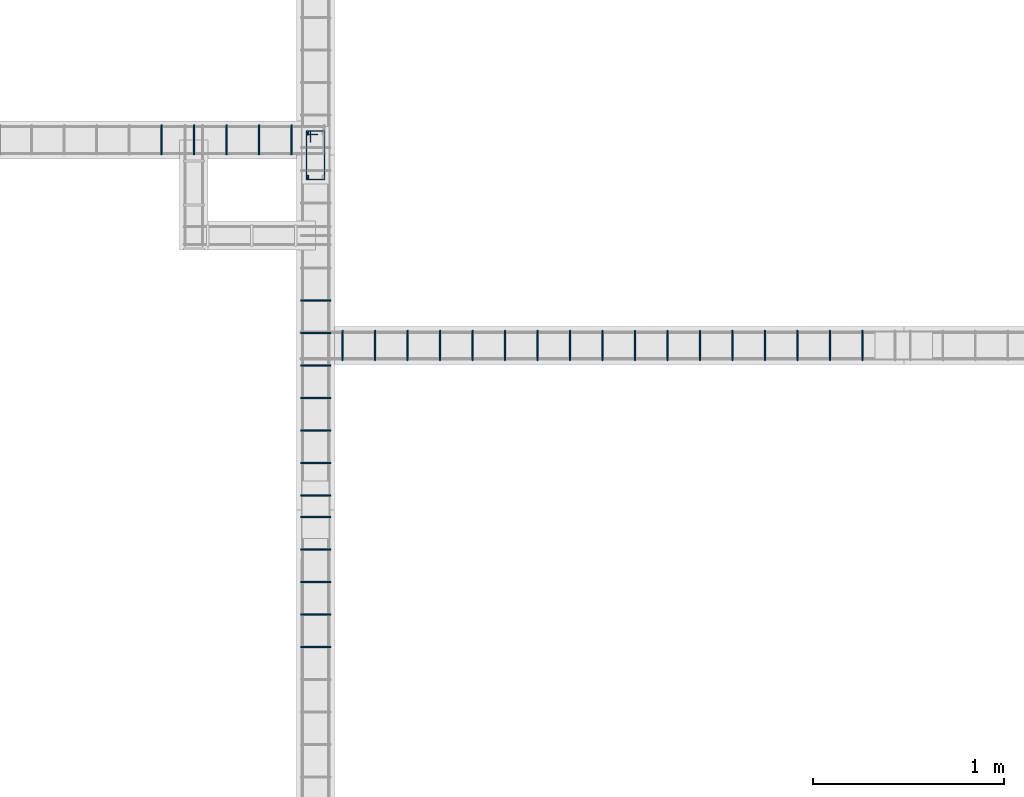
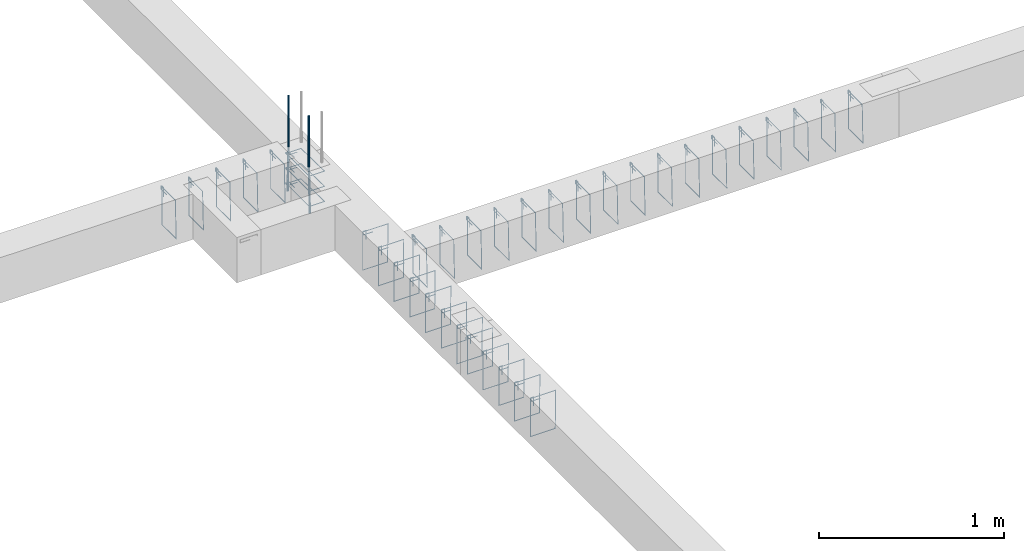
# One storey, part 64 of 150: 39 reinforcing bars.
"""IFC4 building model written with IfcOpenShell, lengths in centimetres."""

from ifc_helpers import new_model, entity, si_unit, derived_unit, frame, origin_with_axes, place, context, project, spatial, source, transform, mapped, element, save


model = new_model("IFC4")

# Units and contexts
model_context = context("Model", 3, precision=1e-05, world=origin_with_axes(), identifier="Body")
ifc_project = project(units=[si_unit("LENGTHUNIT", "METRE", prefix="CENTI"), si_unit("VOLUMEUNIT", "CUBIC_METRE"), si_unit("AREAUNIT", "SQUARE_METRE"), si_unit("POWERUNIT", "WATT"), si_unit("LUMINOUSFLUXUNIT", "LUMEN"), si_unit("ELECTRICCURRENTUNIT", "AMPERE"), si_unit("PRESSUREUNIT", "PASCAL", prefix="KILO"), si_unit("MASSUNIT", "GRAM", prefix="KILO"), si_unit("PLANEANGLEUNIT", "RADIAN"), derived_unit("VOLUMETRICFLOWRATEUNIT", [(si_unit("LENGTHUNIT", "METRE"), 3), (si_unit("TIMEUNIT", "SECOND"), -1)])], contexts=[model_context])

# Site, building, storey
site_placement = place(None, frame((-4000.0, 0.0, 0.0), z_axis=(0.0, 0.0, 1.0), x_axis=(1.0, 0.0, 0.0)))
site = spatial("IfcSite", under=ifc_project, at=site_placement, Name="PADRÃO")
building_placement = place(site_placement, frame((0.0, 0.0, -14.0)))
building = spatial("IfcBuilding", under=site, at=building_placement, Name="CRECHE PRÉ-ESCOLA TIPO 2")
placement = place(building_placement, origin_with_axes())
storey_placement = place(placement, frame((0.0, 0.0, 30.0), z_axis=(0.0, 0.0, 1.0), x_axis=(1.0, 0.0, 0.0)))
storey = spatial("IfcBuildingStorey", under=building, at=storey_placement, Name="VIGA BALDRAME", CompositionType="ELEMENT", Elevation=16.0)

# Reinforcing bars
shared_shape_1 = source(origin_with_axes(), model_context, "Body", "AdvancedSweptSolid", [
    entity("IfcSweptDiskSolid", entity("IfcCompositeCurve", [entity("IfcCompositeCurveSegment", "CONTINUOUS", True, entity("IfcPolyline", [entity("IfcCartesianPoint", [4.25, 21.75, 0.0]), entity("IfcCartesianPoint", [4.25, 27.75, 0.0])])), entity("IfcCompositeCurveSegment", "CONTINUOUS", True, entity("IfcPolyline", [entity("IfcCartesianPoint", [4.25, 27.75, 0.0]), entity("IfcCartesianPoint", [2.25, 27.75, 0.0])])), entity("IfcCompositeCurveSegment", "CONTINUOUS", True, entity("IfcPolyline", [entity("IfcCartesianPoint", [2.25, 27.75, 0.0]), entity("IfcCartesianPoint", [2.25, 2.25, 0.0])])), entity("IfcCompositeCurveSegment", "CONTINUOUS", True, entity("IfcPolyline", [entity("IfcCartesianPoint", [2.25, 2.25, 0.0]), entity("IfcCartesianPoint", [11.75, 2.25, 0.0])])), entity("IfcCompositeCurveSegment", "CONTINUOUS", True, entity("IfcPolyline", [entity("IfcCartesianPoint", [11.75, 2.25, 0.0]), entity("IfcCartesianPoint", [11.75, 27.75, -0.5])])), entity("IfcCompositeCurveSegment", "CONTINUOUS", True, entity("IfcPolyline", [entity("IfcCartesianPoint", [11.75, 27.75, -0.5]), entity("IfcCartesianPoint", [2.25, 27.75, -0.5])])), entity("IfcCompositeCurveSegment", "CONTINUOUS", True, entity("IfcPolyline", [entity("IfcCartesianPoint", [2.25, 27.75, -0.5]), entity("IfcCartesianPoint", [2.25, 25.75, -0.5])])), entity("IfcCompositeCurveSegment", "CONTINUOUS", True, entity("IfcPolyline", [entity("IfcCartesianPoint", [2.25, 25.75, -0.5]), entity("IfcCartesianPoint", [8.25, 25.75, -0.5])]))], False), 0.25),
])
for number, where, z_axis, x_axis, name in (
    (1, (496.69, 2662.01, -15.0), (0.0, 0.0, 1.0), (1.0, 0.0, 0.0), "P66 - Estribo"),
    (2, (496.69, 2662.01, -5.0), (0.0, 0.0, 1.0), (1.0, 0.0, 0.0), "P66 - Estribo"),
    (3, (496.69, 2662.01, -25.0), (0.0, 0.0, 1.0), (1.0, 0.0, 0.0), "P66 - Estribo"),
):
    element("IfcReinforcingBar", number, at=place(storey_placement, frame(where, z_axis=z_axis, x_axis=x_axis)), inside=storey, Name=name, BarLength=0.0, CrossSectionArea=1.9634954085e-05, NominalDiameter=0.5, PredefinedType="MAIN", context=model_context, shape_type="MappedRepresentation", body=[
        mapped(shared_shape_1, transform((0.0, 0.0, 0.0), scale=1.0)),
    ])
shared_shape_2 = source(origin_with_axes(), model_context, "Body", "AdvancedSweptSolid", [
    entity("IfcSweptDiskSolid", entity("IfcCompositeCurve", [entity("IfcCompositeCurveSegment", "CONTINUOUS", True, entity("IfcPolyline", [entity("IfcCartesianPoint", [2.0, -6.0, 0.0]), entity("IfcCartesianPoint", [2.0, 0.0, 0.0])])), entity("IfcCompositeCurveSegment", "CONTINUOUS", True, entity("IfcPolyline", [entity("IfcCartesianPoint", [2.0, 0.0, 0.0]), entity("IfcCartesianPoint", [0.0, 0.0, 0.0])])), entity("IfcCompositeCurveSegment", "CONTINUOUS", True, entity("IfcPolyline", [entity("IfcCartesianPoint", [0.0, 0.0, 0.0]), entity("IfcCartesianPoint", [0.0, -25.5, 0.0])])), entity("IfcCompositeCurveSegment", "CONTINUOUS", True, entity("IfcPolyline", [entity("IfcCartesianPoint", [0.0, -25.5, 0.0]), entity("IfcCartesianPoint", [15.5, -25.5, 0.0])])), entity("IfcCompositeCurveSegment", "CONTINUOUS", True, entity("IfcPolyline", [entity("IfcCartesianPoint", [15.5, -25.5, 0.0]), entity("IfcCartesianPoint", [15.5, 0.0, 0.5])])), entity("IfcCompositeCurveSegment", "CONTINUOUS", True, entity("IfcPolyline", [entity("IfcCartesianPoint", [15.5, 0.0, 0.5]), entity("IfcCartesianPoint", [0.0, 0.0, 0.5])])), entity("IfcCompositeCurveSegment", "CONTINUOUS", True, entity("IfcPolyline", [entity("IfcCartesianPoint", [0.0, 0.0, 0.5]), entity("IfcCartesianPoint", [0.0, -2.0, 0.5])])), entity("IfcCompositeCurveSegment", "CONTINUOUS", True, entity("IfcPolyline", [entity("IfcCartesianPoint", [0.0, -2.0, 0.5]), entity("IfcCartesianPoint", [6.0, -2.0, 0.5])]))], False), 0.25),
])
for number, where, z_axis, x_axis, name in (
    (4, (495.94, 2488.0, -2.25), (0.0, -1.0, 0.0), (1.0, 0.0, 0.0), "V171 - Estribo"),
    (5, (495.94, 2454.0, -2.25), (0.0, -1.0, 0.0), (1.0, 0.0, 0.0), "V171 - Estribo"),
    (6, (495.94, 2437.0, -2.25), (0.0, -1.0, 0.0), (1.0, 0.0, 0.0), "V171 - Estribo"),
    (7, (495.94, 2420.0, -2.25), (0.0, -1.0, 0.0), (1.0, 0.0, 0.0), "V171 - Estribo"),
    (8, (495.94, 2471.0, -2.25), (0.0, -1.0, 0.0), (1.0, 0.0, 0.0), "V171 - Estribo"),
):
    element("IfcReinforcingBar", number, at=place(storey_placement, frame(where, z_axis=z_axis, x_axis=x_axis)), inside=storey, Name=name, BarLength=0.0, CrossSectionArea=1.9634954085e-05, NominalDiameter=0.5, PredefinedType="MAIN", context=model_context, shape_type="MappedRepresentation", body=[
        mapped(shared_shape_2, transform((0.0, 0.0, 0.0), scale=1.0)),
    ])
shared_shape_3 = source(origin_with_axes(), model_context, "Body", "AdvancedSweptSolid", [
    entity("IfcSweptDiskSolid", entity("IfcCompositeCurve", [entity("IfcCompositeCurveSegment", "CONTINUOUS", True, entity("IfcPolyline", [entity("IfcCartesianPoint", [2.0, -6.0, 0.0]), entity("IfcCartesianPoint", [2.0, 0.0, 0.0])])), entity("IfcCompositeCurveSegment", "CONTINUOUS", True, entity("IfcPolyline", [entity("IfcCartesianPoint", [2.0, 0.0, 0.0]), entity("IfcCartesianPoint", [0.0, 0.0, 0.0])])), entity("IfcCompositeCurveSegment", "CONTINUOUS", True, entity("IfcPolyline", [entity("IfcCartesianPoint", [0.0, 0.0, 0.0]), entity("IfcCartesianPoint", [0.0, -25.5, 0.0])])), entity("IfcCompositeCurveSegment", "CONTINUOUS", True, entity("IfcPolyline", [entity("IfcCartesianPoint", [0.0, -25.5, 0.0]), entity("IfcCartesianPoint", [15.5, -25.5, 0.0])])), entity("IfcCompositeCurveSegment", "CONTINUOUS", True, entity("IfcPolyline", [entity("IfcCartesianPoint", [15.5, -25.5, 0.0]), entity("IfcCartesianPoint", [15.5, 0.0, 0.5])])), entity("IfcCompositeCurveSegment", "CONTINUOUS", True, entity("IfcPolyline", [entity("IfcCartesianPoint", [15.5, 0.0, 0.5]), entity("IfcCartesianPoint", [0.0, 0.0, 0.5])])), entity("IfcCompositeCurveSegment", "CONTINUOUS", True, entity("IfcPolyline", [entity("IfcCartesianPoint", [0.0, 0.0, 0.5]), entity("IfcCartesianPoint", [0.0, -2.0, 0.5])])), entity("IfcCompositeCurveSegment", "CONTINUOUS", True, entity("IfcPolyline", [entity("IfcCartesianPoint", [0.0, -2.0, 0.5]), entity("IfcCartesianPoint", [6.0, -2.0, 0.5])]))], False), 0.25),
])
for number, where, z_axis, x_axis, name in (
    (9, (495.94, 2601.255, -2.25), (0.0, -1.0, 0.0), (1.0, 0.0, 0.0), "V171 - Estribo"),
    (10, (495.94, 2584.255, -2.25), (0.0, -1.0, 0.0), (1.0, 0.0, 0.0), "V171 - Estribo"),
    (11, (495.94, 2567.255, -2.25), (0.0, -1.0, 0.0), (1.0, 0.0, 0.0), "V171 - Estribo"),
    (12, (495.94, 2550.255, -2.25), (0.0, -1.0, 0.0), (1.0, 0.0, 0.0), "V171 - Estribo"),
    (13, (495.94, 2533.255, -2.25), (0.0, -1.0, 0.0), (1.0, 0.0, 0.0), "V171 - Estribo"),
    (14, (495.94, 2516.255, -2.25), (0.0, -1.0, 0.0), (1.0, 0.0, 0.0), "V171 - Estribo"),
    (15, (495.94, 2499.255, -2.25), (0.0, -1.0, 0.0), (1.0, 0.0, 0.0), "V171 - Estribo"),
):
    element("IfcReinforcingBar", number, at=place(storey_placement, frame(where, z_axis=z_axis, x_axis=x_axis)), inside=storey, Name=name, BarLength=0.0, CrossSectionArea=1.9634954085e-05, NominalDiameter=0.5, PredefinedType="MAIN", context=model_context, shape_type="MappedRepresentation", body=[
        mapped(shared_shape_3, transform((0.0, 0.0, 0.0), scale=1.0)),
    ])
shared_shape_4 = source(origin_with_axes(), model_context, "Body", "AdvancedSweptSolid", [
    entity("IfcSweptDiskSolid", entity("IfcCompositeCurve", [entity("IfcCompositeCurveSegment", "CONTINUOUS", True, entity("IfcPolyline", [entity("IfcCartesianPoint", [2.0, -6.0, 0.0]), entity("IfcCartesianPoint", [2.0, 0.0, 0.0])])), entity("IfcCompositeCurveSegment", "CONTINUOUS", True, entity("IfcPolyline", [entity("IfcCartesianPoint", [2.0, 0.0, 0.0]), entity("IfcCartesianPoint", [0.0, 0.0, 0.0])])), entity("IfcCompositeCurveSegment", "CONTINUOUS", True, entity("IfcPolyline", [entity("IfcCartesianPoint", [0.0, 0.0, 0.0]), entity("IfcCartesianPoint", [0.0, -25.5, 0.0])])), entity("IfcCompositeCurveSegment", "CONTINUOUS", True, entity("IfcPolyline", [entity("IfcCartesianPoint", [0.0, -25.5, 0.0]), entity("IfcCartesianPoint", [15.5, -25.5, 0.0])])), entity("IfcCompositeCurveSegment", "CONTINUOUS", True, entity("IfcPolyline", [entity("IfcCartesianPoint", [15.5, -25.5, 0.0]), entity("IfcCartesianPoint", [15.5, 0.0, 0.5])])), entity("IfcCompositeCurveSegment", "CONTINUOUS", True, entity("IfcPolyline", [entity("IfcCartesianPoint", [15.5, 0.0, 0.5]), entity("IfcCartesianPoint", [0.0, 0.0, 0.5])])), entity("IfcCompositeCurveSegment", "CONTINUOUS", True, entity("IfcPolyline", [entity("IfcCartesianPoint", [0.0, 0.0, 0.5]), entity("IfcCartesianPoint", [0.0, -2.0, 0.5])])), entity("IfcCompositeCurveSegment", "CONTINUOUS", True, entity("IfcPolyline", [entity("IfcCartesianPoint", [0.0, -2.0, 0.5]), entity("IfcCartesianPoint", [6.0, -2.0, 0.5])]))], False), 0.25),
])
for number, where, z_axis, x_axis, name in (
    (16, (739.04, 2585.25, -2.25), (-1.0, 0.0, 0.0), (0.0, -1.0, 0.0), "V120 - Estribo"),
    (17, (535.04, 2585.25, -2.25), (-1.0, 0.0, 0.0), (0.0, -1.0, 0.0), "V120 - Estribo"),
    (18, (518.04, 2585.25, -2.25), (-1.0, 0.0, 0.0), (0.0, -1.0, 0.0), "V120 - Estribo"),
    (19, (552.04, 2585.25, -2.25), (-1.0, 0.0, 0.0), (0.0, -1.0, 0.0), "V120 - Estribo"),
    (20, (722.04, 2585.25, -2.25), (-1.0, 0.0, 0.0), (0.0, -1.0, 0.0), "V120 - Estribo"),
    (21, (688.04, 2585.25, -2.25), (-1.0, 0.0, 0.0), (0.0, -1.0, 0.0), "V120 - Estribo"),
    (22, (705.04, 2585.25, -2.25), (-1.0, 0.0, 0.0), (0.0, -1.0, 0.0), "V120 - Estribo"),
    (23, (569.04, 2585.25, -2.25), (-1.0, 0.0, 0.0), (0.0, -1.0, 0.0), "V120 - Estribo"),
    (24, (586.04, 2585.25, -2.25), (-1.0, 0.0, 0.0), (0.0, -1.0, 0.0), "V120 - Estribo"),
    (25, (603.04, 2585.25, -2.25), (-1.0, 0.0, 0.0), (0.0, -1.0, 0.0), "V120 - Estribo"),
    (26, (773.04, 2585.25, -2.25), (-1.0, 0.0, 0.0), (0.0, -1.0, 0.0), "V120 - Estribo"),
    (27, (620.04, 2585.25, -2.25), (-1.0, 0.0, 0.0), (0.0, -1.0, 0.0), "V120 - Estribo"),
    (28, (637.04, 2585.25, -2.25), (-1.0, 0.0, 0.0), (0.0, -1.0, 0.0), "V120 - Estribo"),
    (29, (654.04, 2585.25, -2.25), (-1.0, 0.0, 0.0), (0.0, -1.0, 0.0), "V120 - Estribo"),
    (30, (671.04, 2585.25, -2.25), (-1.0, 0.0, 0.0), (0.0, -1.0, 0.0), "V120 - Estribo"),
    (31, (756.04, 2585.25, -2.25), (-1.0, 0.0, 0.0), (0.0, -1.0, 0.0), "V120 - Estribo"),
    (32, (790.04, 2585.25, -2.25), (-1.0, 0.0, 0.0), (0.0, -1.0, 0.0), "V120 - Estribo"),
):
    element("IfcReinforcingBar", number, at=place(storey_placement, frame(where, z_axis=z_axis, x_axis=x_axis)), inside=storey, Name=name, BarLength=0.0, CrossSectionArea=1.9634954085e-05, NominalDiameter=0.5, PredefinedType="MAIN", context=model_context, shape_type="MappedRepresentation", body=[
        mapped(shared_shape_4, transform((0.0, 0.0, 0.0), scale=1.0)),
    ])
shared_shape_5 = source(origin_with_axes(), model_context, "Body", "AdvancedSweptSolid", [
    entity("IfcSweptDiskSolid", entity("IfcCompositeCurve", [entity("IfcCompositeCurveSegment", "CONTINUOUS", True, entity("IfcPolyline", [entity("IfcCartesianPoint", [2.0, -6.0, 0.0]), entity("IfcCartesianPoint", [2.0, 0.0, 0.0])])), entity("IfcCompositeCurveSegment", "CONTINUOUS", True, entity("IfcPolyline", [entity("IfcCartesianPoint", [2.0, 0.0, 0.0]), entity("IfcCartesianPoint", [0.0, 0.0, 0.0])])), entity("IfcCompositeCurveSegment", "CONTINUOUS", True, entity("IfcPolyline", [entity("IfcCartesianPoint", [0.0, 0.0, 0.0]), entity("IfcCartesianPoint", [0.0, -25.5, 0.0])])), entity("IfcCompositeCurveSegment", "CONTINUOUS", True, entity("IfcPolyline", [entity("IfcCartesianPoint", [0.0, -25.5, 0.0]), entity("IfcCartesianPoint", [15.5, -25.5, 0.0])])), entity("IfcCompositeCurveSegment", "CONTINUOUS", True, entity("IfcPolyline", [entity("IfcCartesianPoint", [15.5, -25.5, 0.0]), entity("IfcCartesianPoint", [15.5, 0.0, 0.5])])), entity("IfcCompositeCurveSegment", "CONTINUOUS", True, entity("IfcPolyline", [entity("IfcCartesianPoint", [15.5, 0.0, 0.5]), entity("IfcCartesianPoint", [0.0, 0.0, 0.5])])), entity("IfcCompositeCurveSegment", "CONTINUOUS", True, entity("IfcPolyline", [entity("IfcCartesianPoint", [0.0, 0.0, 0.5]), entity("IfcCartesianPoint", [0.0, -2.0, 0.5])])), entity("IfcCompositeCurveSegment", "CONTINUOUS", True, entity("IfcPolyline", [entity("IfcCartesianPoint", [0.0, -2.0, 0.5]), entity("IfcCartesianPoint", [6.0, -2.0, 0.5])]))], False), 0.25),
])
for number, where, z_axis, x_axis, name in (
    (33, (491.345, 2692.76, -2.25), (-1.0, 0.0, 0.0), (0.0, -1.0, 0.0), "V117 - Estribo"),
    (34, (474.345, 2692.76, -2.25), (-1.0, 0.0, 0.0), (0.0, -1.0, 0.0), "V117 - Estribo"),
    (35, (457.345, 2692.76, -2.25), (-1.0, 0.0, 0.0), (0.0, -1.0, 0.0), "V117 - Estribo"),
    (36, (440.345, 2692.76, -2.25), (-1.0, 0.0, 0.0), (0.0, -1.0, 0.0), "V117 - Estribo"),
    (37, (423.345, 2692.76, -2.25), (-1.0, 0.0, 0.0), (0.0, -1.0, 0.0), "V117 - Estribo"),
):
    element("IfcReinforcingBar", number, at=place(storey_placement, frame(where, z_axis=z_axis, x_axis=x_axis)), inside=storey, Name=name, BarLength=0.0, CrossSectionArea=1.9634954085e-05, NominalDiameter=0.5, PredefinedType="MAIN", context=model_context, shape_type="MappedRepresentation", body=[
        mapped(shared_shape_5, transform((0.0, 0.0, 0.0), scale=1.0)),
    ])
reinforcing_bar_1_placement = place(storey_placement, frame((499.69, 2665.51013877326, 33.3573001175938), z_axis=(0.0, 0.0, 1.0), x_axis=(1.0, 0.0, 0.0)))
element("IfcReinforcingBar", 38, at=reinforcing_bar_1_placement, inside=storey, Name="P66 - Longitudinal", BarLength=0.0, CrossSectionArea=7.853981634e-05, NominalDiameter=1.0, PredefinedType="MAIN", context=model_context, shape_type="AdvancedSweptSolid", body=[
    entity("IfcSweptDiskSolid", entity("IfcCompositeCurve", [entity("IfcCompositeCurveSegment", "CONTINUOUS", True, entity("IfcPolyline", [entity("IfcCartesianPoint", [0.0, -0.500138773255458, -63.3573001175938]), entity("IfcCartesianPoint", [0.0, 0.499861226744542, -33.3573001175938])])), entity("IfcCompositeCurveSegment", "CONTINUOUS", True, entity("IfcPolyline", [entity("IfcCartesianPoint", [0.0, 0.499861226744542, -33.3573001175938]), entity("IfcCartesianPoint", [0.0, 0.499861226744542, 0.0])]))], False), 0.5),
])
reinforcing_bar_2_placement = place(storey_placement, frame((499.69, 2688.50986122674, 33.3573001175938), z_axis=(0.0, 0.0, 1.0), x_axis=(1.0, 0.0, 0.0)))
element("IfcReinforcingBar", 39, at=reinforcing_bar_2_placement, inside=storey, Name="P66 - Longitudinal", BarLength=0.0, CrossSectionArea=7.853981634e-05, NominalDiameter=1.0, PredefinedType="MAIN", context=model_context, shape_type="AdvancedSweptSolid", body=[
    entity("IfcSweptDiskSolid", entity("IfcCompositeCurve", [entity("IfcCompositeCurveSegment", "CONTINUOUS", True, entity("IfcPolyline", [entity("IfcCartesianPoint", [0.0, 0.500138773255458, -63.3573001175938]), entity("IfcCartesianPoint", [0.0, -0.499861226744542, -33.3573001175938])])), entity("IfcCompositeCurveSegment", "CONTINUOUS", True, entity("IfcPolyline", [entity("IfcCartesianPoint", [0.0, -0.499861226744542, -33.3573001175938]), entity("IfcCartesianPoint", [0.0, -0.499861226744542, 0.0])]))], False), 0.5),
])

save(model, "model.ifc")
